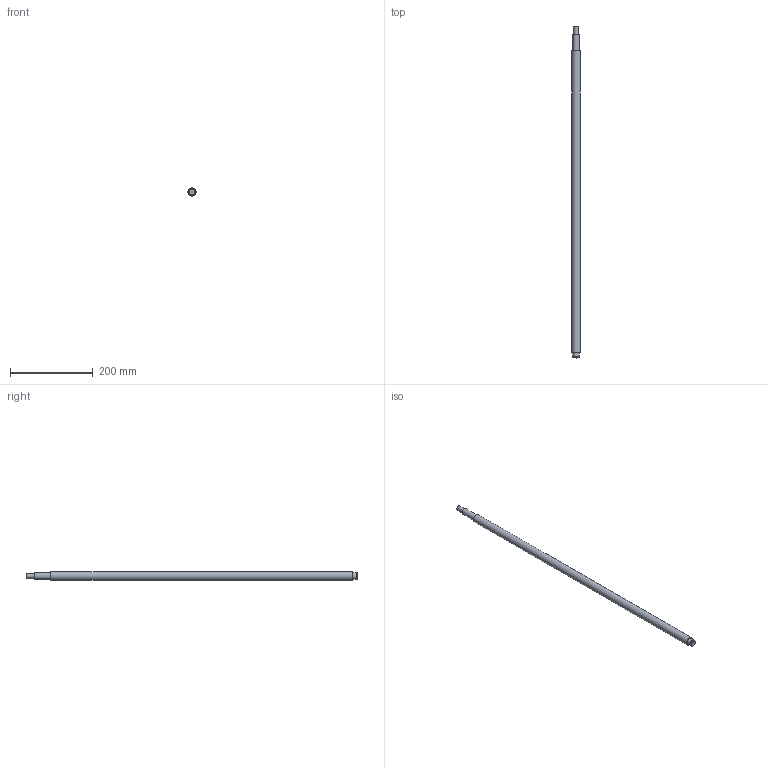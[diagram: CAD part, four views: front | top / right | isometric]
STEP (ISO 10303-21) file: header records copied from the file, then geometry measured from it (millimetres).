
FILE_DESCRIPTION(/* description */ (''),/* implementation_level */ '2;1');
FILE_NAME(/* name */ 'C:\Users\David\Desktop\stepFiles\Profilfuehrung\KUS2005x800.stp',/* time_stamp */ '2018-06-24T15:12:10+02:00',/* author */ ('David'),/* organization */ (''),/* preprocessor_version */ 'ST-DEVELOPER v17',/* originating_system */ 'Autodesk Inventor 2019',/* authorisation */ '');
FILE_SCHEMA (('AUTOMOTIVE_DESIGN { 1 0 10303 214 3 1 1 }'));
Length unit declared in the file: millimetre
Products named in the file (1): SFU2005xvaiabel
Bounding box: 20 x 800 x 20 mm (x, y, z)
Volume: 239992.7 mm3; surface area: 49562.8 mm2
Topology: 1 solids, 1 shells, 15 faces, 34 edges, 26 vertices
Faces by surface type: plane 7, cylinder 6, cone 2
Full cylindrical faces by diameter (mm): 12 x1, 14.3 x1, 15 x3, 20 x1
Entity records: 493 total; most frequent: DIRECTION 92, CARTESIAN_POINT 76, ORIENTED_EDGE 68, AXIS2_PLACEMENT_3D 42, EDGE_CURVE 34, CIRCLE 26, VERTEX_POINT 26, EDGE_LOOP 20
